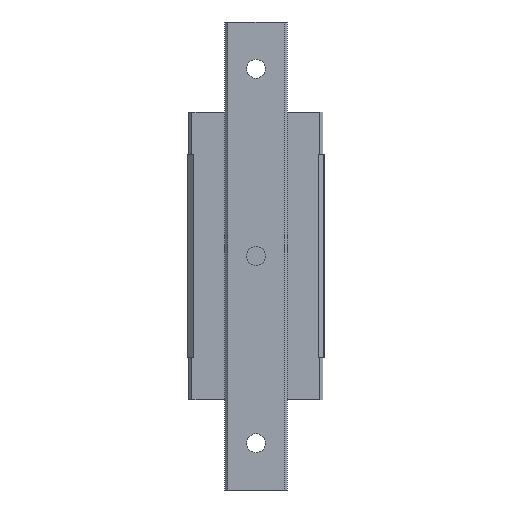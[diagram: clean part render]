
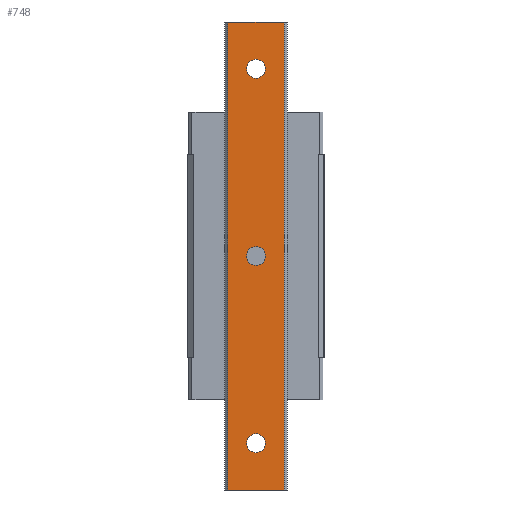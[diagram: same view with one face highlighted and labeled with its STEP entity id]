
A CAD part, front view. The second image highlights one B-rep face of the part: STEP entity #748.
In plain terms, the highlighted planar face has unit normal (0, -1, 0).
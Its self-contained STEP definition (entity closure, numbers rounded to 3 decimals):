
#84 = EDGE_CURVE ( 'NONE', #5457, #2842, #6923, .T. ) ;
#95 = VECTOR ( 'NONE', #6439, 1000. ) ;
#96 = CARTESIAN_POINT ( 'NONE',  ( 0., -17.5, -60. ) ) ;
#102 = ORIENTED_EDGE ( 'NONE', *, *, #4434, .T. ) ;
#144 = EDGE_LOOP ( 'NONE', ( #6227, #849, #4275, #6363 ) ) ;
#157 = AXIS2_PLACEMENT_3D ( 'NONE', #5342, #3589, #4785 ) ;
#193 = CARTESIAN_POINT ( 'NONE',  ( 9., -17.5, -75. ) ) ;
#319 = VERTEX_POINT ( 'NONE', #5071 ) ;
#331 = CARTESIAN_POINT ( 'NONE',  ( -9., -17.5, 75. ) ) ;
#391 = DIRECTION ( 'NONE',  ( 0., 0., 1. ) ) ;
#539 = DIRECTION ( 'NONE',  ( 0., 0., 1. ) ) ;
#565 = CARTESIAN_POINT ( 'NONE',  ( -9., -17.5, 75. ) ) ;
#748 = ADVANCED_FACE ( 'NONE', ( #2596, #1455, #6230, #4507 ), #5024, .T. ) ;
#849 = ORIENTED_EDGE ( 'NONE', *, *, #5355, .T. ) ;
#857 = DIRECTION ( 'NONE',  ( 0., -1., 0. ) ) ;
#1095 = DIRECTION ( 'NONE',  ( -1., 0., 0. ) ) ;
#1166 = EDGE_CURVE ( 'NONE', #5216, #7329, #3495, .T. ) ;
#1199 = DIRECTION ( 'NONE',  ( 0., 0., 1. ) ) ;
#1255 = CARTESIAN_POINT ( 'NONE',  ( 0., -17.5, 0. ) ) ;
#1455 = FACE_BOUND ( 'NONE', #3511, .T. ) ;
#1825 = EDGE_CURVE ( 'NONE', #319, #4425, #7184, .T. ) ;
#1928 = EDGE_CURVE ( 'NONE', #2842, #5457, #6799, .T. ) ;
#2235 = VECTOR ( 'NONE', #1095, 1000. ) ;
#2596 = FACE_BOUND ( 'NONE', #5073, .T. ) ;
#2601 = VERTEX_POINT ( 'NONE', #3340 ) ;
#2680 = LINE ( 'NONE', #331, #2235 ) ;
#2842 = VERTEX_POINT ( 'NONE', #7144 ) ;
#2946 = EDGE_LOOP ( 'NONE', ( #4610, #6703 ) ) ;
#3143 = LINE ( 'NONE', #193, #6229 ) ;
#3340 = CARTESIAN_POINT ( 'NONE',  ( 9., -17.5, 75. ) ) ;
#3381 = AXIS2_PLACEMENT_3D ( 'NONE', #1255, #7296, #4230 ) ;
#3483 = AXIS2_PLACEMENT_3D ( 'NONE', #7668, #7076, #1199 ) ;
#3494 = CARTESIAN_POINT ( 'NONE',  ( 0., -17.5, 0. ) ) ;
#3495 = LINE ( 'NONE', #7037, #95 ) ;
#3511 = EDGE_LOOP ( 'NONE', ( #6948, #5633 ) ) ;
#3516 = AXIS2_PLACEMENT_3D ( 'NONE', #96, #4998, #7358 ) ;
#3589 = DIRECTION ( 'NONE',  ( 0., 1., 0. ) ) ;
#3723 = CARTESIAN_POINT ( 'NONE',  ( 0., -17.5, 57. ) ) ;
#3740 = EDGE_CURVE ( 'NONE', #3837, #6151, #4751, .T. ) ;
#3750 = DIRECTION ( 'NONE',  ( 0., 0., -1. ) ) ;
#3754 = AXIS2_PLACEMENT_3D ( 'NONE', #4034, #6461, #539 ) ;
#3837 = VERTEX_POINT ( 'NONE', #6481 ) ;
#4008 = VERTEX_POINT ( 'NONE', #4722 ) ;
#4034 = CARTESIAN_POINT ( 'NONE',  ( 0., -17.5, 60. ) ) ;
#4162 = EDGE_CURVE ( 'NONE', #4425, #319, #7488, .T. ) ;
#4230 = DIRECTION ( 'NONE',  ( 0., 0., 1. ) ) ;
#4275 = ORIENTED_EDGE ( 'NONE', *, *, #6726, .T. ) ;
#4425 = VERTEX_POINT ( 'NONE', #3723 ) ;
#4434 = EDGE_CURVE ( 'NONE', #6151, #3837, #7694, .T. ) ;
#4454 = DIRECTION ( 'NONE',  ( 1., 0., 0. ) ) ;
#4469 = CARTESIAN_POINT ( 'NONE',  ( -9., -17.5, -75. ) ) ;
#4507 = FACE_OUTER_BOUND ( 'NONE', #144, .T. ) ;
#4610 = ORIENTED_EDGE ( 'NONE', *, *, #1928, .T. ) ;
#4722 = CARTESIAN_POINT ( 'NONE',  ( 9., -17.5, -75. ) ) ;
#4751 = CIRCLE ( 'NONE', #3483, 3. ) ;
#4785 = DIRECTION ( 'NONE',  ( 0., 0., 1. ) ) ;
#4863 = CARTESIAN_POINT ( 'NONE',  ( 0., -17.5, -57. ) ) ;
#4960 = EDGE_CURVE ( 'NONE', #2601, #5216, #2680, .T. ) ;
#4998 = DIRECTION ( 'NONE',  ( 0., 1., 0. ) ) ;
#5000 = DIRECTION ( 'NONE',  ( 0., 0., 1. ) ) ;
#5024 = PLANE ( 'NONE',  #5937 ) ;
#5071 = CARTESIAN_POINT ( 'NONE',  ( 0., -17.5, 63. ) ) ;
#5073 = EDGE_LOOP ( 'NONE', ( #102, #7656 ) ) ;
#5216 = VERTEX_POINT ( 'NONE', #565 ) ;
#5342 = CARTESIAN_POINT ( 'NONE',  ( 0., -17.5, 60. ) ) ;
#5355 = EDGE_CURVE ( 'NONE', #7329, #4008, #7468, .T. ) ;
#5457 = VERTEX_POINT ( 'NONE', #7541 ) ;
#5633 = ORIENTED_EDGE ( 'NONE', *, *, #4162, .T. ) ;
#5669 = VECTOR ( 'NONE', #4454, 1000. ) ;
#5937 = AXIS2_PLACEMENT_3D ( 'NONE', #6895, #857, #3750 ) ;
#6151 = VERTEX_POINT ( 'NONE', #4863 ) ;
#6156 = CARTESIAN_POINT ( 'NONE',  ( -9., -17.5, -75. ) ) ;
#6227 = ORIENTED_EDGE ( 'NONE', *, *, #1166, .T. ) ;
#6229 = VECTOR ( 'NONE', #5000, 1000. ) ;
#6230 = FACE_BOUND ( 'NONE', #2946, .T. ) ;
#6363 = ORIENTED_EDGE ( 'NONE', *, *, #4960, .T. ) ;
#6395 = DIRECTION ( 'NONE',  ( 0., 1., 0. ) ) ;
#6439 = DIRECTION ( 'NONE',  ( 0., 0., -1. ) ) ;
#6461 = DIRECTION ( 'NONE',  ( 0., 1., 0. ) ) ;
#6481 = CARTESIAN_POINT ( 'NONE',  ( 0., -17.5, -63. ) ) ;
#6666 = AXIS2_PLACEMENT_3D ( 'NONE', #3494, #6395, #391 ) ;
#6703 = ORIENTED_EDGE ( 'NONE', *, *, #84, .T. ) ;
#6726 = EDGE_CURVE ( 'NONE', #4008, #2601, #3143, .T. ) ;
#6799 = CIRCLE ( 'NONE', #3381, 3. ) ;
#6895 = CARTESIAN_POINT ( 'NONE',  ( -9., -17.5, -75. ) ) ;
#6923 = CIRCLE ( 'NONE', #6666, 3. ) ;
#6948 = ORIENTED_EDGE ( 'NONE', *, *, #1825, .T. ) ;
#7037 = CARTESIAN_POINT ( 'NONE',  ( -9., -17.5, -75. ) ) ;
#7076 = DIRECTION ( 'NONE',  ( 0., 1., 0. ) ) ;
#7144 = CARTESIAN_POINT ( 'NONE',  ( 0., -17.5, 3. ) ) ;
#7184 = CIRCLE ( 'NONE', #3754, 3. ) ;
#7296 = DIRECTION ( 'NONE',  ( 0., 1., 0. ) ) ;
#7329 = VERTEX_POINT ( 'NONE', #4469 ) ;
#7358 = DIRECTION ( 'NONE',  ( 0., 0., 1. ) ) ;
#7468 = LINE ( 'NONE', #6156, #5669 ) ;
#7488 = CIRCLE ( 'NONE', #157, 3. ) ;
#7541 = CARTESIAN_POINT ( 'NONE',  ( 0., -17.5, -3. ) ) ;
#7656 = ORIENTED_EDGE ( 'NONE', *, *, #3740, .T. ) ;
#7668 = CARTESIAN_POINT ( 'NONE',  ( 0., -17.5, -60. ) ) ;
#7694 = CIRCLE ( 'NONE', #3516, 3. ) ;
